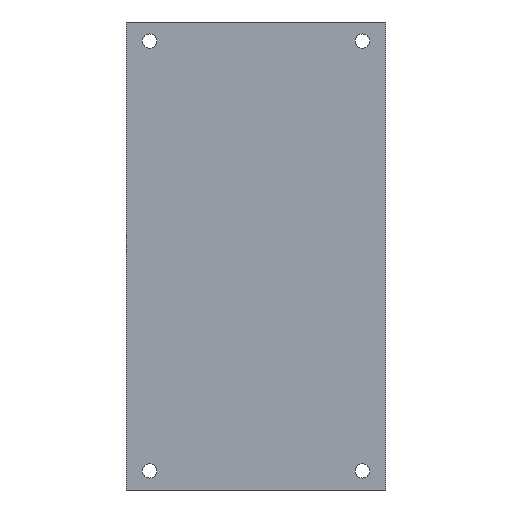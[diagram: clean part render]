
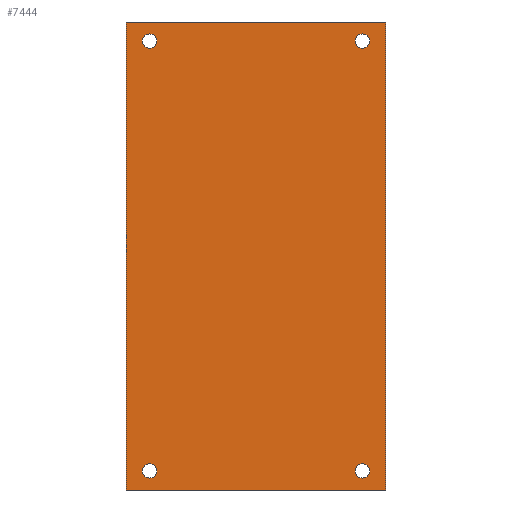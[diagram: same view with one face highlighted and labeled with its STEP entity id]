
A CAD part, front view. The second image highlights one B-rep face of the part: STEP entity #7444.
In plain terms, the highlighted planar face has unit normal (0, -1, 0).
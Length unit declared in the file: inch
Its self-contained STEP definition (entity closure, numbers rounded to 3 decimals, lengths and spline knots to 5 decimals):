
#34=FACE_BOUND('',#889,.T.);
#35=FACE_BOUND('',#890,.T.);
#36=FACE_BOUND('',#891,.T.);
#37=FACE_BOUND('',#892,.T.);
#121=CIRCLE('',#7893,0.06693);
#122=CIRCLE('',#7894,0.06693);
#123=CIRCLE('',#7895,0.06693);
#124=CIRCLE('',#7896,0.06693);
#460=FACE_OUTER_BOUND('',#888,.T.);
#888=EDGE_LOOP('',(#4781,#4782,#4783,#4784));
#889=EDGE_LOOP('',(#4785));
#890=EDGE_LOOP('',(#4786));
#891=EDGE_LOOP('',(#4787));
#892=EDGE_LOOP('',(#4788));
#1416=LINE('',#10738,#2214);
#1418=LINE('',#10742,#2216);
#1419=LINE('',#10744,#2217);
#1420=LINE('',#10745,#2218);
#2214=VECTOR('',#8634,0.3937);
#2216=VECTOR('',#8638,0.3937);
#2217=VECTOR('',#8639,0.3937);
#2218=VECTOR('',#8640,0.3937);
#3000=VERTEX_POINT('',#10735);
#3001=VERTEX_POINT('',#10737);
#3002=VERTEX_POINT('',#10741);
#3003=VERTEX_POINT('',#10743);
#3004=VERTEX_POINT('',#10746);
#3005=VERTEX_POINT('',#10748);
#3006=VERTEX_POINT('',#10750);
#3007=VERTEX_POINT('',#10752);
#3702=EDGE_CURVE('',#3001,#3000,#1416,.T.);
#3704=EDGE_CURVE('',#3002,#3001,#1418,.T.);
#3705=EDGE_CURVE('',#3000,#3003,#1419,.T.);
#3706=EDGE_CURVE('',#3003,#3002,#1420,.T.);
#3707=EDGE_CURVE('',#3004,#3004,#121,.T.);
#3708=EDGE_CURVE('',#3005,#3005,#122,.T.);
#3709=EDGE_CURVE('',#3006,#3006,#123,.T.);
#3710=EDGE_CURVE('',#3007,#3007,#124,.T.);
#4781=ORIENTED_EDGE('',*,*,#3704,.T.);
#4782=ORIENTED_EDGE('',*,*,#3702,.T.);
#4783=ORIENTED_EDGE('',*,*,#3705,.T.);
#4784=ORIENTED_EDGE('',*,*,#3706,.T.);
#4785=ORIENTED_EDGE('',*,*,#3707,.T.);
#4786=ORIENTED_EDGE('',*,*,#3708,.T.);
#4787=ORIENTED_EDGE('',*,*,#3709,.T.);
#4788=ORIENTED_EDGE('',*,*,#3710,.T.);
#6744=PLANE('',#7892);
#7444=ADVANCED_FACE('',(#460,#34,#35,#36,#37),#6744,.F.);
#7892=AXIS2_PLACEMENT_3D('',#10740,#8636,#8637);
#7893=AXIS2_PLACEMENT_3D('',#10747,#8641,#8642);
#7894=AXIS2_PLACEMENT_3D('',#10749,#8643,#8644);
#7895=AXIS2_PLACEMENT_3D('',#10751,#8645,#8646);
#7896=AXIS2_PLACEMENT_3D('',#10753,#8647,#8648);
#8634=DIRECTION('',(0.,0.,-1.));
#8636=DIRECTION('center_axis',(0.,1.,0.));
#8637=DIRECTION('ref_axis',(0.,0.,
1.));
#8638=DIRECTION('',(-1.,0.,0.));
#8639=DIRECTION('',(1.,0.,0.));
#8640=DIRECTION('',(0.,0.,1.));
#8641=DIRECTION('center_axis',(0.,1.,0.));
#8642=DIRECTION('ref_axis',(1.,0.,0.));
#8643=DIRECTION('center_axis',(0.,1.,0.));
#8644=DIRECTION('ref_axis',(1.,0.,0.));
#8645=DIRECTION('center_axis',(0.,1.,0.));
#8646=DIRECTION('ref_axis',(1.,0.,0.));
#8647=DIRECTION('center_axis',(0.,1.,0.));
#8648=DIRECTION('ref_axis',(1.,0.,0.));
#10735=CARTESIAN_POINT('',(-1.37732,-0.19913,-2.12828));
#10737=CARTESIAN_POINT('',(-1.37732,-0.19913,2.20243));
#10738=CARTESIAN_POINT('',(-1.37732,-0.19913,2.20243));
#10740=CARTESIAN_POINT('Origin',(-0.17653,-0.19913,0.03707));
#10741=CARTESIAN_POINT('',(1.02426,-0.19913,2.20243));
#10742=CARTESIAN_POINT('',(1.02426,-0.19913,2.20243));
#10743=CARTESIAN_POINT('',(1.02426,-0.19913,-2.12828));
#10744=CARTESIAN_POINT('',(-1.37732,-0.19913,-2.12828));
#10745=CARTESIAN_POINT('',(1.02426,-0.19913,-2.12828));
#10746=CARTESIAN_POINT('',(0.74079,-0.19913,-1.95112));
#10747=CARTESIAN_POINT('Origin',(0.80772,-0.19913,-1.95112));
#10748=CARTESIAN_POINT('',(-1.22771,-0.19913,2.02526));
#10749=CARTESIAN_POINT('Origin',(-1.16078,-0.19913,2.02526));
#10750=CARTESIAN_POINT('',(-1.22771,-0.19913,-1.95112));
#10751=CARTESIAN_POINT('Origin',(-1.16078,-0.19913,-1.95112));
#10752=CARTESIAN_POINT('',(0.74079,-0.19913,2.02526));
#10753=CARTESIAN_POINT('Origin',(0.80772,-0.19913,2.02526));
